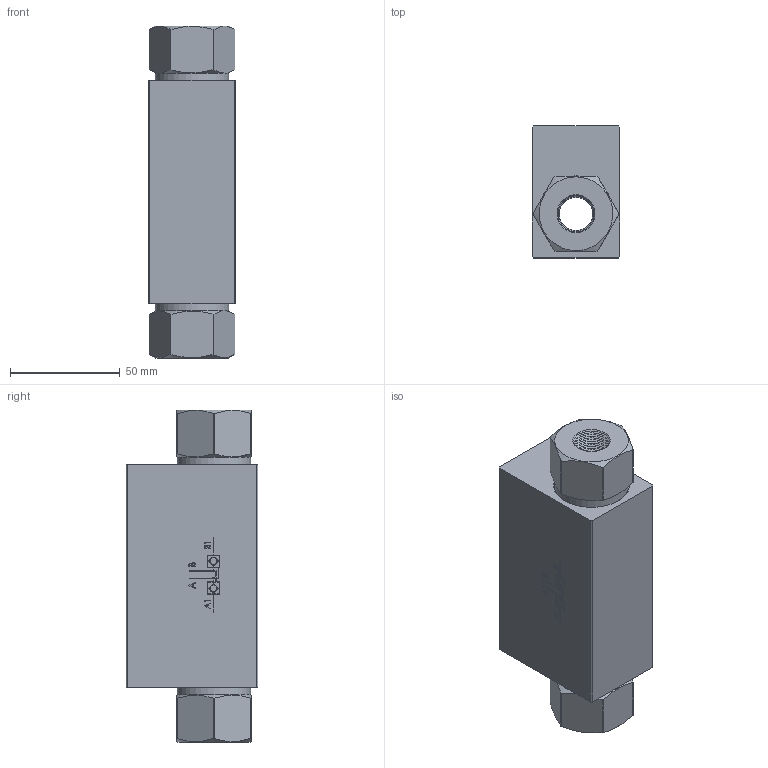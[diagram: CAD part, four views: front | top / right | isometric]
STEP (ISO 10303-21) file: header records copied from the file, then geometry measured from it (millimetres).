
FILE_DESCRIPTION (( 'STEP AP214' ), '1' );
FILE_NAME ('2257-8-38.STEP', '2015-04-11T07:29:15', ( 'cperuzzotti' ), ( 'Hewlett-Packard Company' ), 'SwSTEP 2.0', 'SolidWorks 2014', '' );
FILE_SCHEMA (( 'AUTOMOTIVE_DESIGN' ));
Length unit declared in the file: millimetre
Products named in the file (1): 2257-8-38
Bounding box: 40 x 60 x 151 mm (x, y, z)
Surface area: 33125 mm2 (no closed solid volume)
Topology: 0 solids, 47 shells, 313 faces, 1209 edges, 858 vertices
Faces by surface type: plane 156, cone 67, bspline 63, cylinder 27
Full cylindrical faces by diameter (mm): 3.08 x2, 23 x2, 33.5 x2, 34.5 x2
Entity records: 20354 total; most frequent: CARTESIAN_POINT 7885, ORIENTED_EDGE 1632, DIRECTION 1576, EDGE_CURVE 1126, VERTEX_POINT 850, LINE 690, VECTOR 690, AXIS2_PLACEMENT_3D 443
